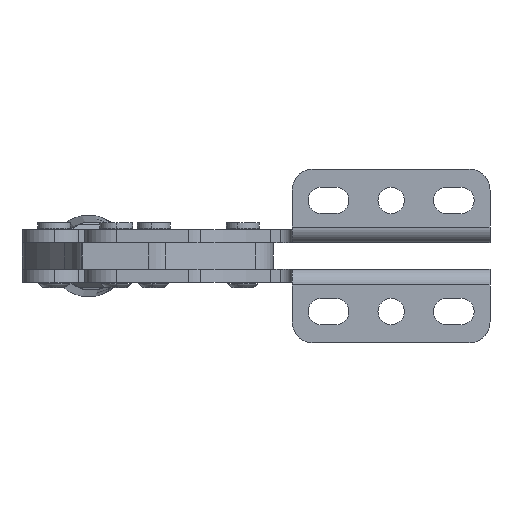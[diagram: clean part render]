
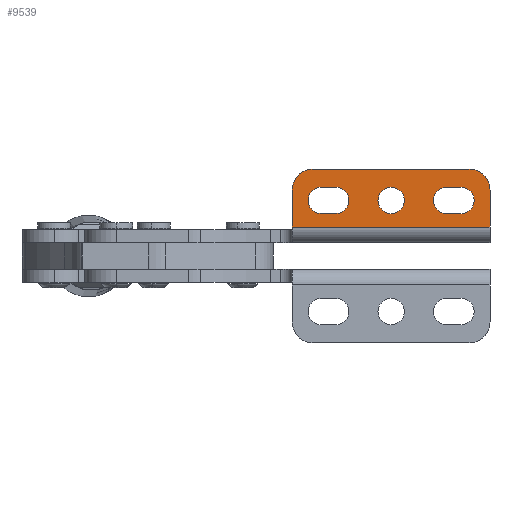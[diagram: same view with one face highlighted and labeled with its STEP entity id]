
A CAD part, left-side view. The second image highlights one B-rep face of the part: STEP entity #9539.
In plain terms, the highlighted planar face has unit normal (-1, 0, 0).
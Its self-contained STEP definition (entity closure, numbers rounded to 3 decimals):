
#80 = VECTOR ( 'NONE', #10077, 1000. ) ;
#124 = DIRECTION ( 'NONE',  ( -1., 0., 0. ) ) ;
#202 = FACE_BOUND ( 'NONE', #4189, .T. ) ;
#274 = VERTEX_POINT ( 'NONE', #9189 ) ;
#290 = CARTESIAN_POINT ( 'NONE',  ( -31.25, -74.74, 20. ) ) ;
#385 = VERTEX_POINT ( 'NONE', #16254 ) ;
#510 = EDGE_CURVE ( 'NONE', #13635, #3911, #12674, .T. ) ;
#645 = CARTESIAN_POINT ( 'NONE',  ( -31.25, -125.245, 11.075 ) ) ;
#709 = LINE ( 'NONE', #6295, #813 ) ;
#745 = CARTESIAN_POINT ( 'NONE',  ( -31.25, -83.245, 16.075 ) ) ;
#813 = VECTOR ( 'NONE', #14319, 1000. ) ;
#905 = LINE ( 'NONE', #3744, #14787 ) ;
#1054 = AXIS2_PLACEMENT_3D ( 'NONE', #745, #8799, #4778 ) ;
#1086 = DIRECTION ( 'NONE',  ( 0., 1., 0. ) ) ;
#1216 = CARTESIAN_POINT ( 'NONE',  ( -31.25, -104.245, 11.075 ) ) ;
#1345 = EDGE_CURVE ( 'NONE', #17321, #5188, #8725, .T. ) ;
#1413 = ORIENTED_EDGE ( 'NONE', *, *, #8806, .T. ) ;
#1604 = CARTESIAN_POINT ( 'NONE',  ( -31.25, -104.245, 16.075 ) ) ;
#1707 = VECTOR ( 'NONE', #15319, 1000. ) ;
#1820 = DIRECTION ( 'NONE',  ( 0., -1., 0. ) ) ;
#1884 = CARTESIAN_POINT ( 'NONE',  ( -31.25, -125.245, 16.075 ) ) ;
#1954 = ORIENTED_EDGE ( 'NONE', *, *, #9308, .F. ) ;
#1966 = CARTESIAN_POINT ( 'NONE',  ( -31.25, 0., 28. ) ) ;
#2051 = DIRECTION ( 'NONE',  ( 0., 0., -1. ) ) ;
#2181 = LINE ( 'NONE', #11850, #3535 ) ;
#2226 = DIRECTION ( 'NONE',  ( 0., 1., 0. ) ) ;
#2357 = ORIENTED_EDGE ( 'NONE', *, *, #15113, .F. ) ;
#2445 = DIRECTION ( 'NONE',  ( 0., 0., 1. ) ) ;
#2672 = EDGE_LOOP ( 'NONE', ( #10223, #17140, #3560, #2872, #1413, #2357 ) ) ;
#2782 = PLANE ( 'NONE',  #10961 ) ;
#2858 = AXIS2_PLACEMENT_3D ( 'NONE', #9654, #124, #6829 ) ;
#2872 = ORIENTED_EDGE ( 'NONE', *, *, #1345, .T. ) ;
#3163 = AXIS2_PLACEMENT_3D ( 'NONE', #13578, #6562, #2445 ) ;
#3305 = VERTEX_POINT ( 'NONE', #9456 ) ;
#3535 = VECTOR ( 'NONE', #1820, 1000. ) ;
#3559 = DIRECTION ( 'NONE',  ( 0., 0., 1. ) ) ;
#3560 = ORIENTED_EDGE ( 'NONE', *, *, #7053, .T. ) ;
#3744 = CARTESIAN_POINT ( 'NONE',  ( -31.25, -66.74, 6. ) ) ;
#3755 = LINE ( 'NONE', #17888, #7827 ) ;
#3764 = AXIS2_PLACEMENT_3D ( 'NONE', #1884, #12750, #7460 ) ;
#3911 = VERTEX_POINT ( 'NONE', #4270 ) ;
#4072 = EDGE_CURVE ( 'NONE', #16913, #10106, #11046, .T. ) ;
#4095 = DIRECTION ( 'NONE',  ( 0., 0., 1. ) ) ;
#4189 = EDGE_LOOP ( 'NONE', ( #1954, #14329 ) ) ;
#4270 = CARTESIAN_POINT ( 'NONE',  ( -31.25, -141.75, 20. ) ) ;
#4524 = CARTESIAN_POINT ( 'NONE',  ( -31.25, -125.245, 21.075 ) ) ;
#4598 = CIRCLE ( 'NONE', #2858, 5. ) ;
#4778 = DIRECTION ( 'NONE',  ( 0., 0., 1. ) ) ;
#5188 = VERTEX_POINT ( 'NONE', #14235 ) ;
#5332 = CARTESIAN_POINT ( 'NONE',  ( -31.25, -66.74, 6. ) ) ;
#5394 = EDGE_CURVE ( 'NONE', #10106, #274, #2181, .T. ) ;
#5529 = AXIS2_PLACEMENT_3D ( 'NONE', #290, #14266, #5874 ) ;
#5543 = EDGE_CURVE ( 'NONE', #11656, #385, #17380, .T. ) ;
#5590 = VERTEX_POINT ( 'NONE', #5332 ) ;
#5695 = FACE_OUTER_BOUND ( 'NONE', #2672, .T. ) ;
#5833 = CARTESIAN_POINT ( 'NONE',  ( -31.25, -141.75, 6. ) ) ;
#5874 = DIRECTION ( 'NONE',  ( 0., 0., -1. ) ) ;
#5878 = VECTOR ( 'NONE', #2226, 1000. ) ;
#6295 = CARTESIAN_POINT ( 'NONE',  ( -31.25, -130.745, 21.075 ) ) ;
#6526 = CARTESIAN_POINT ( 'NONE',  ( -31.25, -83.245, 21.075 ) ) ;
#6562 = DIRECTION ( 'NONE',  ( -1., 0., 0. ) ) ;
#6642 = EDGE_CURVE ( 'NONE', #15919, #8520, #14304, .T. ) ;
#6724 = EDGE_CURVE ( 'NONE', #3911, #15257, #12329, .T. ) ;
#6824 = VERTEX_POINT ( 'NONE', #12021 ) ;
#6829 = DIRECTION ( 'NONE',  ( 0., 0., 1. ) ) ;
#7009 = DIRECTION ( 'NONE',  ( 1., 0., 0. ) ) ;
#7053 = EDGE_CURVE ( 'NONE', #15257, #17321, #10445, .T. ) ;
#7379 = CARTESIAN_POINT ( 'NONE',  ( -31.25, -83.245, 11.075 ) ) ;
#7460 = DIRECTION ( 'NONE',  ( 0., 0., 1. ) ) ;
#7502 = ORIENTED_EDGE ( 'NONE', *, *, #6642, .F. ) ;
#7827 = VECTOR ( 'NONE', #2051, 1000. ) ;
#8062 = EDGE_CURVE ( 'NONE', #385, #15919, #11037, .T. ) ;
#8187 = DIRECTION ( 'NONE',  ( 0., 0., -1. ) ) ;
#8199 = ORIENTED_EDGE ( 'NONE', *, *, #5394, .F. ) ;
#8305 = CARTESIAN_POINT ( 'NONE',  ( -31.25, -133.75, 28. ) ) ;
#8520 = VERTEX_POINT ( 'NONE', #11000 ) ;
#8552 = AXIS2_PLACEMENT_3D ( 'NONE', #14934, #17853, #9291 ) ;
#8725 = CIRCLE ( 'NONE', #5529, 8. ) ;
#8799 = DIRECTION ( 'NONE',  ( -1., 0., 0. ) ) ;
#8806 = EDGE_CURVE ( 'NONE', #5188, #5590, #3755, .T. ) ;
#8928 = EDGE_CURVE ( 'NONE', #3305, #16913, #709, .T. ) ;
#9189 = CARTESIAN_POINT ( 'NONE',  ( -31.25, -130.745, 11.075 ) ) ;
#9291 = DIRECTION ( 'NONE',  ( 0., 0., -1. ) ) ;
#9308 = EDGE_CURVE ( 'NONE', #6824, #11495, #15995, .T. ) ;
#9456 = CARTESIAN_POINT ( 'NONE',  ( -31.25, -130.745, 21.075 ) ) ;
#9539 = ADVANCED_FACE ( 'NONE', ( #202, #14012, #15284, #5695 ), #2782, .F. ) ;
#9654 = CARTESIAN_POINT ( 'NONE',  ( -31.25, -130.745, 16.075 ) ) ;
#9905 = CARTESIAN_POINT ( 'NONE',  ( -31.25, 0., 0. ) ) ;
#10077 = DIRECTION ( 'NONE',  ( 0., 1., 0. ) ) ;
#10106 = VERTEX_POINT ( 'NONE', #645 ) ;
#10118 = ORIENTED_EDGE ( 'NONE', *, *, #13991, .F. ) ;
#10223 = ORIENTED_EDGE ( 'NONE', *, *, #510, .T. ) ;
#10308 = ORIENTED_EDGE ( 'NONE', *, *, #4072, .F. ) ;
#10445 = LINE ( 'NONE', #1966, #80 ) ;
#10587 = ORIENTED_EDGE ( 'NONE', *, *, #8928, .F. ) ;
#10716 = ORIENTED_EDGE ( 'NONE', *, *, #5543, .F. ) ;
#10961 = AXIS2_PLACEMENT_3D ( 'NONE', #9905, #7009, #8187 ) ;
#11000 = CARTESIAN_POINT ( 'NONE',  ( -31.25, -83.245, 11.075 ) ) ;
#11037 = CIRCLE ( 'NONE', #3163, 5. ) ;
#11046 = CIRCLE ( 'NONE', #3764, 5. ) ;
#11080 = ORIENTED_EDGE ( 'NONE', *, *, #17430, .F. ) ;
#11495 = VERTEX_POINT ( 'NONE', #1216 ) ;
#11656 = VERTEX_POINT ( 'NONE', #14160 ) ;
#11850 = CARTESIAN_POINT ( 'NONE',  ( -31.25, -130.745, 11.075 ) ) ;
#12021 = CARTESIAN_POINT ( 'NONE',  ( -31.25, -104.245, 21.075 ) ) ;
#12329 = CIRCLE ( 'NONE', #8552, 8. ) ;
#12576 = DIRECTION ( 'NONE',  ( -1., 0., 0. ) ) ;
#12674 = LINE ( 'NONE', #15156, #1707 ) ;
#12684 = ORIENTED_EDGE ( 'NONE', *, *, #8062, .F. ) ;
#12750 = DIRECTION ( 'NONE',  ( -1., 0., 0. ) ) ;
#12784 = AXIS2_PLACEMENT_3D ( 'NONE', #1604, #12576, #4095 ) ;
#13068 = CARTESIAN_POINT ( 'NONE',  ( -31.25, -104.245, 16.075 ) ) ;
#13290 = EDGE_CURVE ( 'NONE', #11495, #6824, #15072, .T. ) ;
#13578 = CARTESIAN_POINT ( 'NONE',  ( -31.25, -77.745, 16.075 ) ) ;
#13635 = VERTEX_POINT ( 'NONE', #5833 ) ;
#13991 = EDGE_CURVE ( 'NONE', #274, #3305, #4598, .T. ) ;
#14012 = FACE_BOUND ( 'NONE', #16717, .T. ) ;
#14160 = CARTESIAN_POINT ( 'NONE',  ( -31.25, -83.245, 21.075 ) ) ;
#14235 = CARTESIAN_POINT ( 'NONE',  ( -31.25, -66.74, 20. ) ) ;
#14266 = DIRECTION ( 'NONE',  ( -1., 0., 0. ) ) ;
#14304 = LINE ( 'NONE', #7379, #15823 ) ;
#14319 = DIRECTION ( 'NONE',  ( 0., 1., 0. ) ) ;
#14329 = ORIENTED_EDGE ( 'NONE', *, *, #13290, .F. ) ;
#14787 = VECTOR ( 'NONE', #1086, 1000. ) ;
#14934 = CARTESIAN_POINT ( 'NONE',  ( -31.25, -133.75, 20. ) ) ;
#15072 = CIRCLE ( 'NONE', #15946, 5. ) ;
#15113 = EDGE_CURVE ( 'NONE', #13635, #5590, #905, .T. ) ;
#15156 = CARTESIAN_POINT ( 'NONE',  ( -31.25, -141.75, 0. ) ) ;
#15257 = VERTEX_POINT ( 'NONE', #8305 ) ;
#15284 = FACE_BOUND ( 'NONE', #17635, .T. ) ;
#15319 = DIRECTION ( 'NONE',  ( 0., 0., 1. ) ) ;
#15823 = VECTOR ( 'NONE', #17143, 1000. ) ;
#15919 = VERTEX_POINT ( 'NONE', #17499 ) ;
#15946 = AXIS2_PLACEMENT_3D ( 'NONE', #13068, #15983, #3559 ) ;
#15983 = DIRECTION ( 'NONE',  ( -1., 0., 0. ) ) ;
#15995 = CIRCLE ( 'NONE', #12784, 5. ) ;
#16254 = CARTESIAN_POINT ( 'NONE',  ( -31.25, -77.745, 21.075 ) ) ;
#16717 = EDGE_LOOP ( 'NONE', ( #10587, #10118, #8199, #10308 ) ) ;
#16913 = VERTEX_POINT ( 'NONE', #4524 ) ;
#16921 = CARTESIAN_POINT ( 'NONE',  ( -31.25, -74.74, 28. ) ) ;
#17140 = ORIENTED_EDGE ( 'NONE', *, *, #6724, .T. ) ;
#17143 = DIRECTION ( 'NONE',  ( 0., -1., 0. ) ) ;
#17321 = VERTEX_POINT ( 'NONE', #16921 ) ;
#17380 = LINE ( 'NONE', #6526, #5878 ) ;
#17430 = EDGE_CURVE ( 'NONE', #8520, #11656, #17949, .T. ) ;
#17499 = CARTESIAN_POINT ( 'NONE',  ( -31.25, -77.745, 11.075 ) ) ;
#17635 = EDGE_LOOP ( 'NONE', ( #10716, #11080, #7502, #12684 ) ) ;
#17853 = DIRECTION ( 'NONE',  ( -1., 0., 0. ) ) ;
#17888 = CARTESIAN_POINT ( 'NONE',  ( -31.25, -66.74, 0. ) ) ;
#17949 = CIRCLE ( 'NONE', #1054, 5. ) ;
